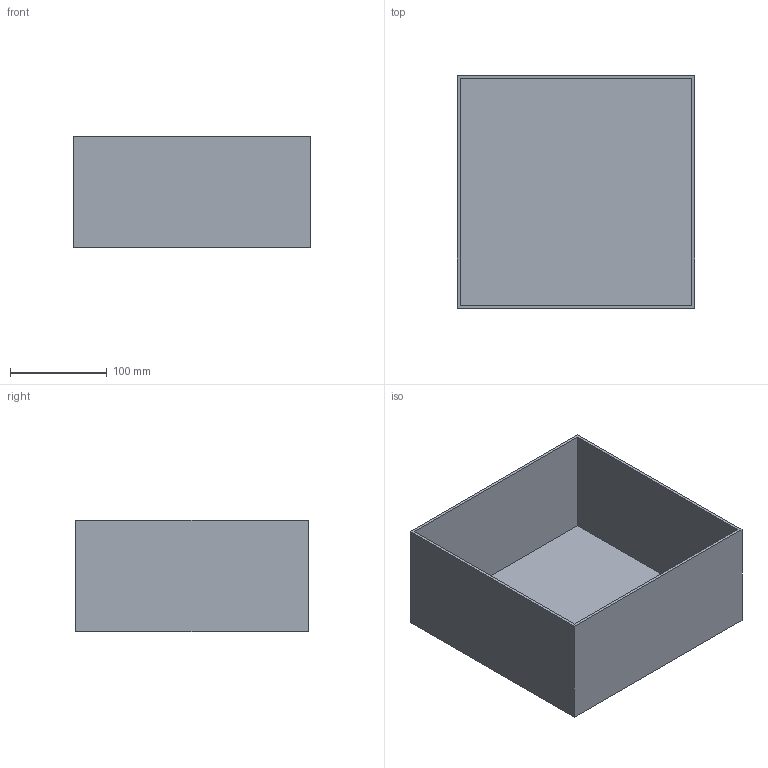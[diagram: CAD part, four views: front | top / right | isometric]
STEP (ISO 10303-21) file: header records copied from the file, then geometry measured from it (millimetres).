
FILE_DESCRIPTION(('Open CASCADE Model'),'2;1');
FILE_NAME('Open CASCADE Shape Model','2026-10-04T01:02:36',('Author'),( 'Open CASCADE'),'Open CASCADE STEP processor 8.0','Open CASCADE 8.0' ,'Unknown');
FILE_SCHEMA(('AUTOMOTIVE_DESIGN { 1 0 10303 214 1 1 1 1 }'));
Length unit declared in the file: millimetre
Products named in the file (1): Open CASCADE STEP translator 8.0 404
Bounding box: 245 x 240 x 115 mm (x, y, z)
Volume: 498288 mm3; surface area: 335102 mm2
Topology: 1 solids, 1 shells, 11 faces, 24 edges, 16 vertices
Faces by surface type: plane 11
Entity records: 612 total; most frequent: CARTESIAN_POINT 108, DIRECTION 88, LINE 64, VECTOR 64, ORIENTED_EDGE 48, PCURVE 48, DEFINITIONAL_REPRESENTATION 48, EDGE_CURVE 24
